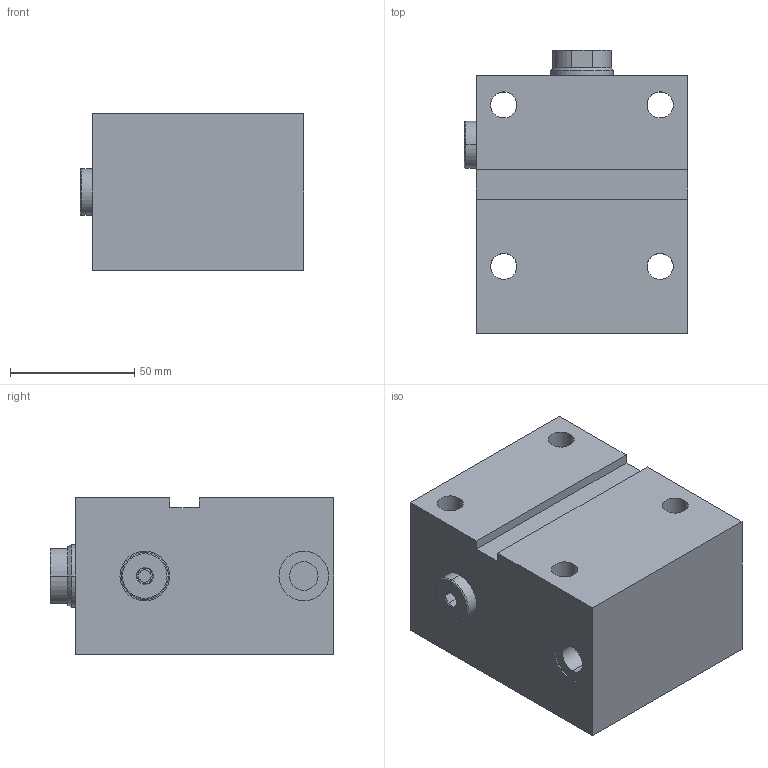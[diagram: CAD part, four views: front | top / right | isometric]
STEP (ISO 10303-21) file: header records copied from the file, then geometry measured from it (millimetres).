
FILE_DESCRIPTION (( 'STEP AP203' ), '1' );
FILE_NAME ('GERMA_Blockzylinder_651-040-020.STEP', '2023-08-26T15:42:47', ( '' ), ( '' ), 'SwSTEP 2.0', 'SolidWorks 2016', '' );
FILE_SCHEMA (( 'CONFIG_CONTROL_DESIGN' ));
Length unit declared in the file: millimetre
Products named in the file (3): GERMA_Blockzylinder_651-040-020; Kolben 60x-040_Kolben DU.40-Hub50-IG; GH-600-040-ew_GH-651-040-020
Assembly tree (2 placements, depth 2):
  GERMA_Blockzylinder_651-040-020
    GH-600-040-ew_GH-651-040-020
    Kolben 60x-040_Kolben DU.40-Hub50-IG
Bounding box: 89.8 x 114 x 63 mm (x, y, z)
Volume: 511298.1 mm3; surface area: 74350 mm2
Topology: 2 solids, 2 shells, 99 faces, 227 edges, 142 vertices
Faces by surface type: cylinder 41, plane 35, cone 21, torus 2
Entity records: 3141 total; most frequent: CARTESIAN_POINT 530, DIRECTION 526, ORIENTED_EDGE 442, EDGE_CURVE 221, AXIS2_PLACEMENT_3D 208, VERTEX_POINT 142, EDGE_LOOP 123, VECTOR 110
